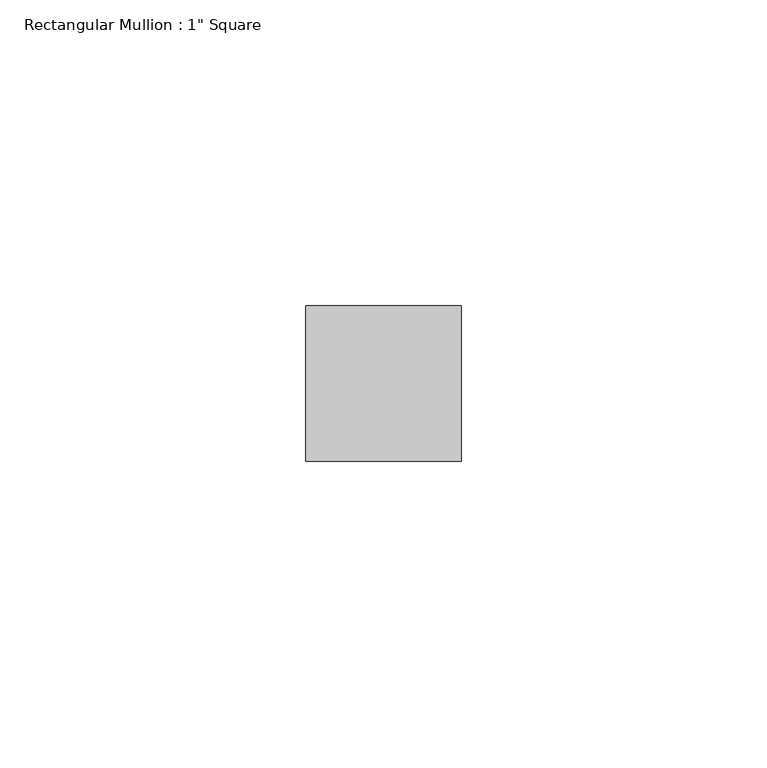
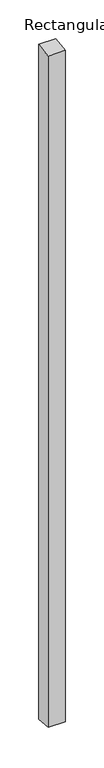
"""IFC4 building model written with IfcOpenShell, lengths in millimetres: member geometry."""

from ifc_helpers import new_model, si_unit, origin, place, context, project, spatial, faceted_brep, source, transform, mapped, element, save


def member_edda2d83(model_context):
    return source(origin(), model_context, "Body", "Brep", [
        faceted_brep([(-25.4, 12.7, 1.0114643), (0.0, 12.7, 1.4738328), (0.0, 12.7, -1068.2738328), (-25.4, 12.7, -1067.8114643), (-25.4, -12.7, -1.9362014), (-25.4, -12.7, -1064.8637986), (0.0, -12.7, -1.4738328), (0.0, -12.7, -1065.3261672)], [[[0, 1, 2, 3]], [[4, 0, 3, 5]], [[6, 4, 5, 7]], [[1, 6, 7, 2]], [[1, 0, 4, 6]], [[2, 7, 5, 3]]]),
    ])


if __name__ == "__main__":
    model = new_model("IFC4")
    model_context = context("Model", 3, world=origin())
    ifc_project = project(units=[si_unit("LENGTHUNIT", "METRE", prefix="MILLI")], contexts=[model_context])
    site = spatial("IfcSite", under=ifc_project)
    building = spatial("IfcBuilding", under=site)
    placement = place(None, origin())
    member_shape = member_edda2d83(model_context)
    element("IfcMember", 1, ObjectType="Rectangular Mullion : 1\" Square", at=placement, inside=building, context=model_context, shape_type="MappedRepresentation", body=[
        mapped(member_shape, transform((0.0, 0.0, 0.0), x_axis=(1.0, 0.0, 0.0), y_axis=(0.0, 1.0, 0.0), z_axis=(0.0, 0.0, 1.0))),
    ])
    save(model, "model.ifc")
